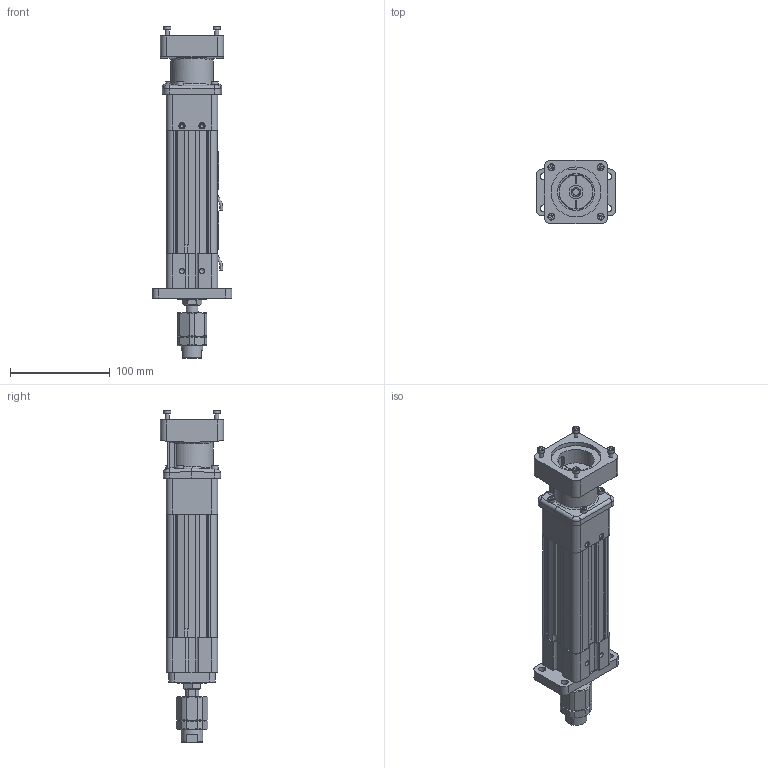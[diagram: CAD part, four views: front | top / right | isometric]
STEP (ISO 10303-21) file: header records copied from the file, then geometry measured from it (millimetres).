
FILE_DESCRIPTION (( 'STEP AP203' ), '1' );
FILE_NAME ('RSA24_BNL05_SM60.000_RS-489406-1.step', '2025-05-29T12:14:14', ( '' ), ( '' ), 'SwSTEP 2.0', 'SolidWorks 2024', '' );
FILE_SCHEMA (( 'CONFIG_CONTROL_DESIGN' ));
Length unit declared in the file: inch
Products named in the file (7): RSA24_BNL05_SM60.000_RS-489406-1; tempJoin1_21249032_RSA24_BNL05_SM60.000_RS-489406-1; tempJoin2_45109053_RSA24_BNL05_SM60.000_RS-489406-1; Base_RSA24_BNL05_SM60.000_RS-489406-1; 11249810_RSA24_BNL05_SM60.000_RS-489406-1; 21241070_RSA24_BNL05_SM60.000_RS-489406-1; tempJoin1_21249083_RSA24_BNL05_SM60.000_RS-489406-1
Assembly tree (7 placements, depth 2):
  RSA24_BNL05_SM60.000_RS-489406-1
    11249810_RSA24_BNL05_SM60.000_RS-489406-1  x2
    tempJoin1_21249032_RSA24_BNL05_SM60.000_RS-489406-1
    21241070_RSA24_BNL05_SM60.000_RS-489406-1
    tempJoin2_45109053_RSA24_BNL05_SM60.000_RS-489406-1
    tempJoin1_21249083_RSA24_BNL05_SM60.000_RS-489406-1
    Base_RSA24_BNL05_SM60.000_RS-489406-1
Bounding box: 80 x 63.17 x 332.46 mm (x, y, z)
Volume: 598169.1 mm3; surface area: 161810.5 mm2
Topology: 11 solids, 32 shells, 1335 faces, 3266 edges, 2138 vertices
Faces by surface type: plane 766, cylinder 317, bspline 156, cone 74, torus 22
Full cylindrical faces by diameter (mm): 1 x4, 1.981 x2, 2.25 x4, 2.5 x9, 2.921 x4, 3.299 x4, 3.3 x8, 3.969 x2, 3.988 x2, 4 x21, 4.2 x4, 4.572 x1, 4.623 x4, 4.826 x4, 5 x10, 5.001 x2, 5.613 x4, 6.25 x2, 6.35 x2, 7 x13, 7.2 x4, 7.874 x4, 7.973 x1, 8.5 x12, 8.8 x2, 9.652 x12, 9.906 x1, 9.972 x1, 14 x1, 21.844 x1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
Entity records: 35794 total; most frequent: CARTESIAN_POINT 9918, DIRECTION 5020, ORIENTED_EDGE 4912, EDGE_CURVE 2456, AXIS2_PLACEMENT_3D 1796, VERTEX_POINT 1718, EDGE_LOOP 1536, LINE 1428
